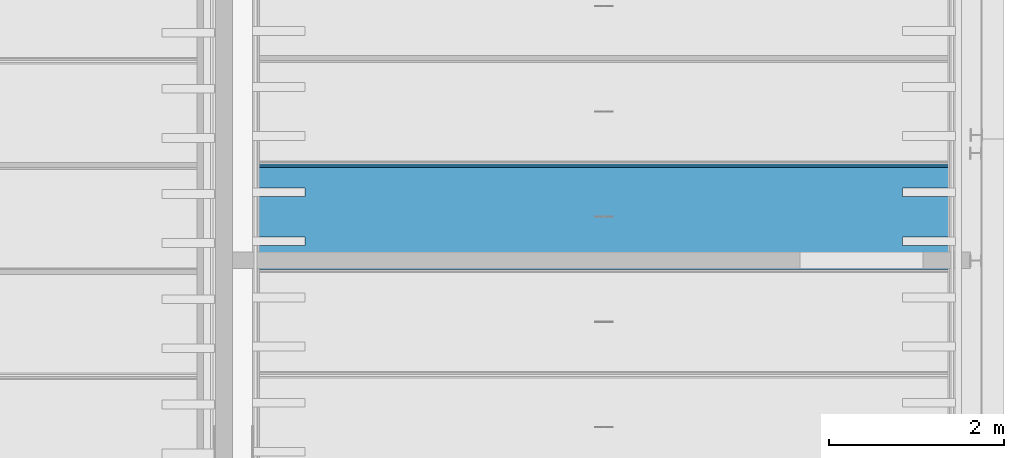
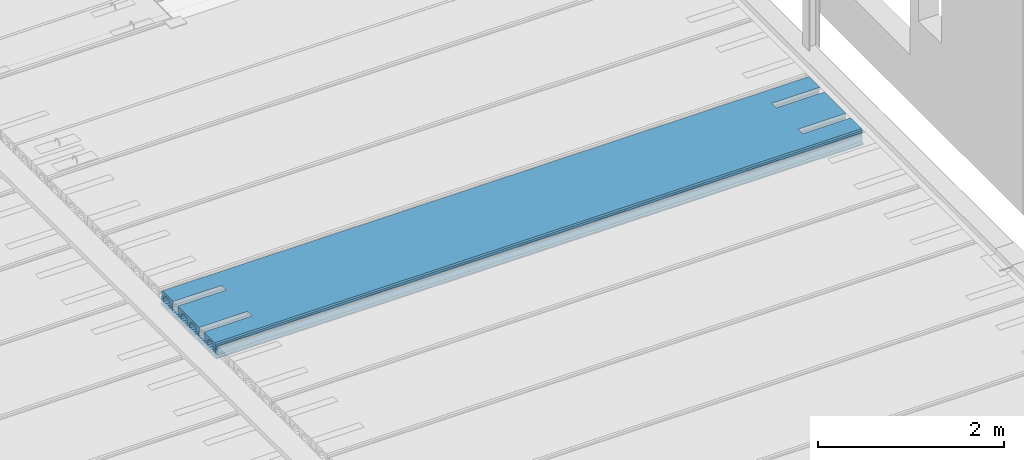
# One storey, part 93 of 230: 1 beam.
"""IFC4X3_ADD2 building model written with IfcOpenShell, lengths in millimetres."""

import ifcopenshell
import ifcopenshell.guid

model = None  # the IFC model being written
_history = None  # IfcOwnerHistory: only IFC2X3 demands one
_inside = {}  # id of a spatial element -> (the spatial element, [elements in it])
_under = {}  # id of a project, library or spatial element -> (it, [spatial elements below it])
_declared = {}  # id of a project -> (the project, [libraries it declares])
_typed = {}  # id of a type object -> (the type object, [elements of that type])
_made_of = {}  # id of a material, layer set ... -> (it, [elements and type objects made of it])


def new_model(schema):
    """Start an empty IFC model of exactly this schema.

    Asked for "IFC4X3", IfcOpenShell would pick the latest addendum, in which some entities
    have other attributes; the version numbers below select the first issue.
    IFC2X3 requires an IfcOwnerHistory on every rooted entity: one is made here for all.
    """
    global model, _history
    if schema == "IFC4X3":
        model = ifcopenshell.file(schema_version=(4, 3, 0, 0))
    else:
        model = ifcopenshell.file(schema=schema)
    _inside.clear()
    _under.clear()
    _declared.clear()
    _typed.clear()
    _made_of.clear()
    _history = None
    if model.schema == "IFC2X3":
        org = make("IfcOrganization", Name="unknown")
        user = make(
            "IfcPersonAndOrganization",
            ThePerson=make("IfcPerson", FamilyName="unknown"),
            TheOrganization=org,
        )
        app = make(
            "IfcApplication",
            ApplicationDeveloper=org,
            Version="unknown",
            ApplicationFullName="unknown",
            ApplicationIdentifier="unknown",
        )
        _history = make(
            "IfcOwnerHistory",
            OwningUser=user,
            OwningApplication=app,
            ChangeAction="ADDED",
            CreationDate=0,
        )
    return model


def make(cls, **values):
    """One entity of the class cls with the attributes given. An attribute that is None is left unset."""
    return model.create_entity(
        cls, **{name: value for name, value in values.items() if value is not None}
    )


def rooted(cls, **values):
    """An entity with a GlobalId (a new one), such as an element, a storey or a relation."""
    return make(cls, GlobalId=ifcopenshell.guid.new(), OwnerHistory=_history, **values)


def si_unit(unit_type, name, prefix=None):
    """IfcSIUnit, for example si_unit("LENGTHUNIT", "METRE", prefix="MILLI")."""
    return make("IfcSIUnit", UnitType=unit_type, Prefix=prefix, Name=name)


def assignment(units):
    """IfcUnitAssignment: the units of a project."""
    return None if units is None else make("IfcUnitAssignment", Units=units)


def point(xyz):
    """IfcCartesianPoint."""
    return None if xyz is None else make("IfcCartesianPoint", Coordinates=xyz)


def direction(xyz):
    """IfcDirection."""
    return None if xyz is None else make("IfcDirection", DirectionRatios=xyz)


def frame(location, z_axis=None, x_axis=None):
    """IfcAxis2Placement3D, a coordinate frame: its origin and axes. An axis left out is left unset."""
    return make(
        "IfcAxis2Placement3D",
        Location=point(location),
        Axis=direction(z_axis),
        RefDirection=direction(x_axis),
    )


def origin_with_axes():
    """The frame at (0, 0, 0) with the z axis (0, 0, 1) and the x axis (1, 0, 0) written out."""
    return frame((0.0, 0.0, 0.0), z_axis=(0.0, 0.0, 1.0), x_axis=(1.0, 0.0, 0.0))


def place(relative_to, where):
    """IfcLocalPlacement: puts the frame where relative to a parent placement (None: the world)."""
    return make(
        "IfcLocalPlacement", PlacementRelTo=relative_to, RelativePlacement=where
    )


def context(
    kind, dimensions, precision=None, world=None, true_north=None, identifier=None
):
    """IfcGeometricRepresentationContext, for example the 3D "Model" context."""
    return make(
        "IfcGeometricRepresentationContext",
        ContextIdentifier=identifier,
        ContextType=kind,
        CoordinateSpaceDimension=dimensions,
        Precision=precision,
        WorldCoordinateSystem=world,
        TrueNorth=true_north,
    )


def subcontext(parent, identifier, kind, view, scale=None):
    """IfcGeometricRepresentationSubContext, for example "Body" below "Model"."""
    return make(
        "IfcGeometricRepresentationSubContext",
        ContextIdentifier=identifier,
        ContextType=kind,
        ParentContext=parent,
        TargetScale=scale,
        TargetView=view,
    )


def project(units=None, contexts=None):
    """IfcProject with its units and contexts."""
    return rooted(
        "IfcProject",
        Name="project",
        RepresentationContexts=contexts,
        UnitsInContext=assignment(units),
    )


def spatial(cls, under=None, at=None, **own):
    """A site, building, storey or space (cls), placed at a placement, below another one or the project."""
    s = rooted(cls, ObjectPlacement=at, **own)
    if under is not None:
        _under.setdefault(under.id(), (under, []))[1].append(s)
    return s


def point_list(points):
    """IfcCartesianPointList2D or 3D."""
    cls = (
        "IfcCartesianPointList2D" if len(points[0]) == 2 else "IfcCartesianPointList3D"
    )
    return make(cls, CoordList=points)


def polygons(points, faces, closed=None, point_numbers=None):
    """IfcPolygonalFaceSet: a face is its outer loop, then its inner loops; points numbered from 1."""
    made = []
    for loops in faces:
        if len(loops) == 1:
            made.append(make("IfcIndexedPolygonalFace", CoordIndex=loops[0]))
        else:
            made.append(
                make(
                    "IfcIndexedPolygonalFaceWithVoids",
                    CoordIndex=loops[0],
                    InnerCoordIndices=loops[1:],
                )
            )
    return make(
        "IfcPolygonalFaceSet",
        Coordinates=point_list(points),
        Closed=closed,
        Faces=made,
        PnIndex=point_numbers,
    )


def shape(context_of_items, identifier, shape_type, items):
    """IfcShapeRepresentation: the items that make up one representation, for example the "Body"."""
    return make(
        "IfcShapeRepresentation",
        ContextOfItems=context_of_items,
        RepresentationIdentifier=identifier,
        RepresentationType=shape_type,
        Items=items,
    )


def made_of(thing, what):
    """Note that an element or type object is made of a material, layer set ...; save() writes the relation."""
    if what is not None:
        _made_of.setdefault(what.id(), (what, []))[1].append(thing)
    return thing


def element(
    cls,
    number,
    at=None,
    inside=None,
    cuts=None,
    type_object=None,
    material=None,
    context=None,
    identifier="Body",
    shape_type=None,
    held_by="IfcProductDefinitionShape",
    body=None,
    shapes=None,
    **own,
):
    """One element of the class cls, such as IfcWall. Its Tag is "e" and its number.

    at: its placement. inside: the storey or other place that contains it. cuts: it is an
    opening in that element (IfcRelVoidsElement). A single representation is given by context,
    identifier, shape_type and body (its items); several are given by shapes. held_by: the class
    of the entity that holds the representations. save() writes the other relations.
    """
    e = rooted(cls, Tag="e%d" % number, ObjectPlacement=at, **own)
    if body is not None:
        shapes = [shape(context, identifier, shape_type, body)]
    if shapes is not None:
        e.Representation = make(held_by, Representations=shapes)
    if inside is not None:
        _inside.setdefault(inside.id(), (inside, []))[1].append(e)
    if cuts is not None:
        rooted(
            "IfcRelVoidsElement", RelatingBuildingElement=cuts, RelatedOpeningElement=e
        )
    if type_object is not None:
        _typed.setdefault(type_object.id(), (type_object, []))[1].append(e)
    return made_of(e, material)


def aggregate(whole, parts):
    """IfcRelAggregates: a whole, such as a stair, and the parts it consists of."""
    return rooted("IfcRelAggregates", RelatingObject=whole, RelatedObjects=parts)


def save(model, path):
    """Write the relations noted so far, then the file.

    IfcRelAggregates (storeys below a building ...), IfcRelContainedInSpatialStructure (elements
    in a storey), IfcRelDefinesByType, IfcRelAssociatesMaterial and IfcRelDeclares: one each for
    every whole, place, type object, material and project.
    """
    for whole, parts in _under.values():
        aggregate(whole, parts)
    for where, things in _inside.values():
        rooted(
            "IfcRelContainedInSpatialStructure",
            RelatedElements=things,
            RelatingStructure=where,
        )
    for kind, things in _typed.values():
        rooted("IfcRelDefinesByType", RelatedObjects=things, RelatingType=kind)
    for what, things in _made_of.values():
        rooted("IfcRelAssociatesMaterial", RelatedObjects=things, RelatingMaterial=what)
    for by, libraries in _declared.values():
        rooted("IfcRelDeclares", RelatingContext=by, RelatedDefinitions=libraries)
    model.write(path)


model = new_model("IFC4X3_ADD2")

# Units and contexts
model_context = context("Model", 3, precision=1e-05, world=origin_with_axes(), true_north=direction((0.0, 1.0)))
body_context = subcontext(model_context, "Body", "Model", "MODEL_VIEW")
ifc_project = project(units=[si_unit("LENGTHUNIT", "METRE", prefix="MILLI"), si_unit("AREAUNIT", "SQUARE_METRE"), si_unit("VOLUMEUNIT", "CUBIC_METRE"), si_unit("PLANEANGLEUNIT", "RADIAN"), si_unit("TIMEUNIT", "SECOND"), si_unit("MASSUNIT", "GRAM")], contexts=[model_context])

# Site, building, storey
site_placement = place(None, origin_with_axes())
site = spatial("IfcSite", under=ifc_project, at=site_placement, Name="Site", CompositionType="ELEMENT")
building_placement = place(site_placement, origin_with_axes())
building = spatial("IfcBuilding", under=site, at=building_placement, Name="IFC Building Story")
storey_placement = place(building_placement, origin_with_axes())
storey = spatial("IfcBuildingStorey", under=building, at=storey_placement, Name="ETAGE 00 (0)", Elevation=0.0)

# Beam
beam_placement = place(storey_placement, origin_with_axes())
element("IfcBeam", 1, at=beam_placement, inside=storey, Name="HOLLOWCORE SLAB", ObjectType="EB_SP200", context=body_context, shape_type="Tessellation", body=[
    polygons([(40181.189, -3951.0, 3999.9999909), (40181.189, -5129.0, 3999.9999909), (40181.189, -5140.0, 4012.9999909), (40181.189, -5140.0, 4029.9999909), (40181.189, -5120.0, 4044.9999909), (40181.189, -5118.549987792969, 4119.9999909), (40181.189, -5111.017378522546, 4128.676139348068), (40181.189, -5108.160069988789, 4139.805000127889), (40181.189, -5110.581363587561, 4151.036789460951), (40181.189, -5117.77001953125, 4159.9999909), (40181.189, -5117.288703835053, 4185.002769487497), (40181.189, -5102.0, 4199.9999909), (40181.189, -4870.0, 4199.9999909), (40181.189, -4870.0, 4155.806158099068), (40181.189, -4874.679455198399, 4152.679446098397), (40181.189, -4890.829025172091, 4128.509906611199), (40181.189, -4896.5, 4099.9999909), (40181.189, -4890.829025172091, 4071.490075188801), (40181.189, -4874.679455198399, 4047.320535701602), (40181.189, -4850.509915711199, 4031.170965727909), (40181.189, -4822.0, 4025.4999909), (40181.189, -4793.490084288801, 4031.170965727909), (40181.189, -4769.320544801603, 4047.320535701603), (40181.189, -4753.170974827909, 4071.490075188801), (40181.189, -4747.5, 4099.9999909), (40181.189, -4753.170974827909, 4128.509906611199), (40181.189, -4769.320544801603, 4152.679446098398), (40181.189, -4770.0, 4153.13344354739), (40181.189, -4770.0, 4199.9999909), (40181.189, -4310.0, 4199.9999909), (40181.189, -4310.0, 4153.13344354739), (40181.189, -4310.679455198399, 4152.679446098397), (40181.189, -4326.829025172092, 4128.509906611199), (40181.189, -4332.500000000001, 4099.9999909), (40181.189, -4326.829025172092, 4071.490075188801), (40181.189, -4310.679455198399, 4047.320535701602), (40181.189, -4286.5099157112, 4031.170965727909), (40181.189, -4258.0, 4025.4999909), (40181.189, -4229.490084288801, 4031.170965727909), (40181.189, -4205.320544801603, 4047.320535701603), (40181.189, -4189.170974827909, 4071.490075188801), (40181.189, -4183.500000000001, 4099.9999909), (40181.189, -4189.170974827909, 4128.509906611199), (40181.189, -4205.320544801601, 4152.679446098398), (40181.189, -4210.0, 4155.806158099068), (40181.189, -4210.0, 4199.9999909), (40181.189, -3978.0, 4199.9999909), (40181.189, -3962.71129616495, 4185.002769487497), (40181.189, -3962.22998046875, 4159.9999909), (40181.189, -3969.41863641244, 4151.036789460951), (40181.189, -3971.83993001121, 4139.805000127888), (40181.189, -3968.98262147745, 4128.676139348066), (40181.189, -3961.450012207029, 4119.9999909), (40181.189, -3960.0, 4044.9999909), (40181.189, -3940.0, 4029.9999909), (40181.189, -3940.0, 4012.9999909), (40181.189, -4017.3205448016, 4152.679446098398), (40181.189, -4041.4900842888, 4168.829016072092), (40181.189, -4070.0, 4174.4999909), (40181.189, -4098.5099157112, 4168.829016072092), (40181.189, -4122.6794551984, 4152.679446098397), (40181.189, -4138.82902517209, 4128.509906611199), (40181.189, -4144.500000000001, 4099.9999909), (40181.189, -4138.82902517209, 4071.490075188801), (40181.189, -4122.6794551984, 4047.320535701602), (40181.189, -4098.5099157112, 4031.170965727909), (40181.189, -4070.0, 4025.4999909), (40181.189, -4041.4900842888, 4031.170965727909), (40181.189, -4017.3205448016, 4047.320535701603), (40181.189, -4001.17097482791, 4071.490075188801), (40181.189, -3995.5, 4099.9999909), (40181.189, -4001.17097482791, 4128.509906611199), (40181.189, -4393.320544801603, 4152.679446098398), (40181.189, -4417.490084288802, 4168.829016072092), (40181.189, -4446.0, 4174.4999909), (40181.189, -4474.5099157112, 4168.829016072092), (40181.189, -4498.679455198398, 4152.679446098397), (40181.189, -4514.829025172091, 4128.509906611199), (40181.189, -4520.500000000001, 4099.9999909), (40181.189, -4514.829025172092, 4071.490075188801), (40181.189, -4498.679455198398, 4047.320535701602), (40181.189, -4474.5099157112, 4031.170965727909), (40181.189, -4446.0, 4025.4999909), (40181.189, -4417.490084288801, 4031.170965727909), (40181.189, -4393.320544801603, 4047.320535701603), (40181.189, -4377.170974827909, 4071.490075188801), (40181.189, -4371.5, 4099.9999909), (40181.189, -4377.170974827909, 4128.509906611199), (40181.189, -4581.320544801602, 4152.679446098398), (40181.189, -4605.490084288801, 4168.829016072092), (40181.189, -4634.0, 4174.4999909), (40181.189, -4662.5099157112, 4168.829016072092), (40181.189, -4686.679455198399, 4152.679446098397), (40181.189, -4702.829025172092, 4128.509906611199), (40181.189, -4708.500000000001, 4099.9999909), (40181.189, -4702.829025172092, 4071.490075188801), (40181.189, -4686.679455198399, 4047.320535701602), (40181.189, -4662.509915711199, 4031.170965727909), (40181.189, -4634.0, 4025.4999909), (40181.189, -4605.490084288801, 4031.170965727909), (40181.189, -4581.320544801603, 4047.320535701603), (40181.189, -4565.17097482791, 4071.490075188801), (40181.189, -4559.5, 4099.9999909), (40181.189, -4565.170974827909, 4128.509906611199), (40181.189, -4957.320544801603, 4152.679446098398), (40181.189, -4981.490084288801, 4168.829016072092), (40181.189, -5010.0, 4174.4999909), (40181.189, -5038.509915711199, 4168.829016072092), (40181.189, -5062.679455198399, 4152.679446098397), (40181.189, -5078.829025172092, 4128.509906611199), (40181.189, -5084.5, 4099.9999909), (40181.189, -5078.829025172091, 4071.490075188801), (40181.189, -5062.679455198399, 4047.320535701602), (40181.189, -5038.509915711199, 4031.170965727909), (40181.189, -5010.0, 4025.4999909), (40181.189, -4981.490084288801, 4031.170965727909), (40181.189, -4957.320544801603, 4047.320535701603), (40181.189, -4941.17097482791, 4071.490075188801), (40181.189, -4935.500000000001, 4099.9999909), (40181.189, -4941.17097482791, 4128.509906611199), (48196.18900000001, -3951.0, 3999.9999909), (48196.18900000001, -3940.0, 4012.9999909), (48196.18900000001, -3940.0, 4029.9999909), (48196.18900000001, -3960.0, 4044.9999909), (48196.18900000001, -3961.450012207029, 4119.9999909), (48196.18900000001, -3968.98262147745, 4128.676139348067), (48196.18900000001, -3971.83993001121, 4139.805000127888), (48196.18900000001, -3969.41863641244, 4151.036789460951), (48196.18900000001, -3962.22998046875, 4159.9999909), (48196.18900000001, -3962.71129616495, 4185.002769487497), (48196.18900000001, -3978.0, 4199.9999909), (48196.18900000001, -4210.0, 4199.9999909), (48196.18900000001, -4210.0, 4155.806158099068), (48196.18900000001, -4205.320544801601, 4152.679446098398), (48196.18900000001, -4189.17097482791, 4128.509906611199), (48196.18900000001, -4183.5, 4099.9999909), (48196.18900000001, -4189.17097482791, 4071.490075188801), (48196.18900000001, -4205.320544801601, 4047.320535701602), (48196.18900000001, -4229.490084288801, 4031.170965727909), (48196.18900000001, -4258.0, 4025.4999909), (48196.18900000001, -4286.5099157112, 4031.170965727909), (48196.18900000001, -4310.679455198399, 4047.320535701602), (48196.18900000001, -4326.829025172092, 4071.490075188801), (48196.18900000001, -4332.500000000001, 4099.9999909), (48196.18900000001, -4326.829025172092, 4128.509906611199), (48196.18900000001, -4310.679455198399, 4152.679446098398), (48196.18900000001, -4310.0, 4153.13344354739), (48196.18900000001, -4310.0, 4199.9999909), (48196.18900000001, -4770.0, 4199.9999909), (48196.18900000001, -4770.0, 4153.13344354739), (48196.18900000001, -4769.320544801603, 4152.679446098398), (48196.18900000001, -4753.170974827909, 4128.509906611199), (48196.18900000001, -4747.5, 4099.9999909), (48196.18900000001, -4753.170974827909, 4071.490075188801), (48196.18900000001, -4769.320544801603, 4047.320535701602), (48196.18900000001, -4793.490084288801, 4031.170965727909), (48196.18900000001, -4822.0, 4025.4999909), (48196.18900000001, -4850.5099157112, 4031.170965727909), (48196.18900000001, -4874.679455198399, 4047.320535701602), (48196.18900000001, -4890.829025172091, 4071.490075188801), (48196.18900000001, -4896.5, 4099.9999909), (48196.18900000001, -4890.829025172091, 4128.509906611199), (48196.18900000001, -4874.679455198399, 4152.679446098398), (48196.18900000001, -4870.0, 4155.806158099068), (48196.18900000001, -4870.0, 4199.9999909), (48196.18900000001, -5102.0, 4199.9999909), (48196.18900000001, -5117.288703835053, 4185.002769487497), (48196.18900000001, -5117.770019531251, 4159.9999909), (48196.18900000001, -5110.581363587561, 4151.036789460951), (48196.18900000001, -5108.160069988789, 4139.805000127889), (48196.18900000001, -5111.017378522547, 4128.676139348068), (48196.18900000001, -5118.549987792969, 4119.9999909), (48196.18900000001, -5120.0, 4044.9999909), (48196.18900000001, -5140.0, 4029.9999909), (48196.18900000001, -5140.0, 4012.9999909), (48196.18900000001, -5129.0, 3999.9999909), (48196.18900000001, -4017.3205448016, 4152.679446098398), (48196.18900000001, -4001.17097482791, 4128.509906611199), (48196.18900000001, -3995.5, 4099.9999909), (48196.18900000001, -4001.17097482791, 4071.490075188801), (48196.18900000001, -4017.3205448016, 4047.320535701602), (48196.18900000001, -4041.4900842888, 4031.170965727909), (48196.18900000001, -4070.0, 4025.4999909), (48196.18900000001, -4098.5099157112, 4031.170965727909), (48196.18900000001, -4122.6794551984, 4047.320535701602), (48196.18900000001, -4138.82902517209, 4071.490075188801), (48196.18900000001, -4144.500000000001, 4099.9999909), (48196.18900000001, -4138.82902517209, 4128.509906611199), (48196.18900000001, -4122.6794551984, 4152.679446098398), (48196.18900000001, -4098.5099157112, 4168.829016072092), (48196.18900000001, -4070.0, 4174.4999909), (48196.18900000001, -4041.4900842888, 4168.829016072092), (48196.18900000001, -4393.320544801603, 4152.679446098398), (48196.18900000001, -4377.170974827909, 4128.509906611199), (48196.18900000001, -4371.5, 4099.9999909), (48196.18900000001, -4377.170974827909, 4071.490075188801), (48196.18900000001, -4393.320544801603, 4047.320535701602), (48196.18900000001, -4417.490084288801, 4031.170965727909), (48196.18900000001, -4446.0, 4025.4999909), (48196.18900000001, -4474.5099157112, 4031.170965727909), (48196.18900000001, -4498.679455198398, 4047.320535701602), (48196.18900000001, -4514.829025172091, 4071.490075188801), (48196.18900000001, -4520.500000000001, 4099.9999909), (48196.18900000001, -4514.829025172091, 4128.509906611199), (48196.18900000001, -4498.679455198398, 4152.679446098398), (48196.18900000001, -4474.5099157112, 4168.829016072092), (48196.18900000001, -4446.0, 4174.4999909), (48196.18900000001, -4417.490084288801, 4168.829016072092), (48196.18900000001, -4581.320544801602, 4152.679446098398), (48196.18900000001, -4565.17097482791, 4128.509906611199), (48196.18900000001, -4559.5, 4099.9999909), (48196.18900000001, -4565.17097482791, 4071.490075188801), (48196.18900000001, -4581.320544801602, 4047.320535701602), (48196.18900000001, -4605.490084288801, 4031.170965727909), (48196.18900000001, -4634.0, 4025.4999909), (48196.18900000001, -4662.5099157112, 4031.170965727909), (48196.18900000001, -4686.679455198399, 4047.320535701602), (48196.18900000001, -4702.829025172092, 4071.490075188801), (48196.18900000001, -4708.500000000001, 4099.9999909), (48196.18900000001, -4702.829025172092, 4128.509906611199), (48196.18900000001, -4686.679455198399, 4152.679446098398), (48196.18900000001, -4662.5099157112, 4168.829016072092), (48196.18900000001, -4634.0, 4174.4999909), (48196.18900000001, -4605.490084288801, 4168.829016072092), (48196.18900000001, -4957.320544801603, 4152.679446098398), (48196.18900000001, -4941.17097482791, 4128.509906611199), (48196.18900000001, -4935.500000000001, 4099.9999909), (48196.18900000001, -4941.17097482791, 4071.490075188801), (48196.18900000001, -4957.320544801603, 4047.320535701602), (48196.18900000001, -4981.490084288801, 4031.170965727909), (48196.18900000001, -5010.0, 4025.4999909), (48196.18900000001, -5038.509915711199, 4031.170965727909), (48196.18900000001, -5062.679455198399, 4047.320535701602), (48196.18900000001, -5078.829025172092, 4071.490075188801), (48196.18900000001, -5084.5, 4099.9999909), (48196.18900000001, -5078.829025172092, 4128.509906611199), (48196.18900000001, -5062.679455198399, 4152.679446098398), (48196.18900000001, -5038.509915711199, 4168.829016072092), (48196.18900000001, -5010.0, 4174.4999909), (48196.18900000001, -4981.490084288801, 4168.829016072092), (40781.189, -4210.0, 4199.9999909), (40781.189, -4310.0, 4199.9999909), (40781.189, -4770.0, 4199.9999909), (40781.189, -4870.0, 4199.9999909), (47596.18900000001, -4870.0, 4199.9999909), (47596.18900000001, -4770.0, 4199.9999909), (47596.18900000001, -4310.0, 4199.9999909), (47596.18900000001, -4210.0, 4199.9999909), (47596.18900000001, -4210.0, 4155.806158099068), (47596.18900000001, -4229.490084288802, 4168.829016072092), (40781.189, -4229.490084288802, 4168.829016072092), (40781.189, -4210.0, 4155.806158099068), (47596.18900000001, -4258.0, 4174.4999909), (40781.189, -4258.0, 4174.4999909), (47596.18900000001, -4286.5099157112, 4168.829016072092), (40781.189, -4286.5099157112, 4168.829016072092), (40781.189, -4310.0, 4153.13344354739), (47596.18900000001, -4310.0, 4153.13344354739), (47596.18900000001, -4770.0, 4153.133443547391), (47596.18900000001, -4793.490084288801, 4168.829016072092), (40781.189, -4793.490084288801, 4168.829016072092), (40781.189, -4770.0, 4153.13344354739), (47596.18900000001, -4822.0, 4174.4999909), (40781.189, -4822.0, 4174.4999909), (47596.18900000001, -4850.5099157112, 4168.829016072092), (40781.189, -4850.509915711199, 4168.829016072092), (40781.189, -4870.0, 4155.806158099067), (47596.18900000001, -4870.0, 4155.806158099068), (40781.189, -4310.0, 4199.999996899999), (40781.189, -4210.0, 4199.999996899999), (47596.18900000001, -4210.0, 4199.999996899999), (47596.18900000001, -4310.0, 4199.999996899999), (47596.18900000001, -4770.0, 4199.999996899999), (47596.18900000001, -4870.0, 4199.999996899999), (40781.189, -4870.0, 4199.999996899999), (40781.189, -4770.0, 4199.999996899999)], [[[27, 28, 29]], [[92, 93, 26]], [[92, 26, 27]], [[92, 27, 29]], [[29, 91, 92]], [[91, 29, 30]], [[30, 90, 91]], [[30, 89, 90]], [[94, 95, 25]], [[94, 25, 26]], [[26, 93, 94]], [[96, 97, 24]], [[24, 25, 95]], [[24, 95, 96]], [[97, 23, 24]], [[76, 77, 104]], [[76, 104, 89]], [[89, 75, 76]], [[75, 89, 30]], [[30, 74, 75]], [[30, 73, 74]], [[78, 79, 103]], [[78, 103, 104]], [[104, 77, 78]], [[80, 81, 102]], [[102, 103, 79]], [[102, 79, 80]], [[81, 101, 102]], [[88, 73, 30]], [[88, 30, 31]], [[33, 34, 87]], [[33, 87, 88]], [[88, 32, 33]], [[88, 31, 32]], [[35, 36, 86]], [[86, 87, 34]], [[86, 34, 35]], [[36, 85, 86]], [[44, 45, 46]], [[60, 61, 43]], [[60, 43, 44]], [[60, 44, 46]], [[46, 59, 60]], [[46, 47, 59]], [[47, 58, 59]], [[47, 57, 58]], [[62, 63, 42]], [[62, 42, 43]], [[43, 61, 62]], [[64, 65, 41]], [[41, 42, 63]], [[41, 63, 64]], [[50, 51, 72]], [[50, 72, 57]], [[57, 47, 48]], [[57, 48, 49]], [[57, 49, 50]], [[52, 53, 71]], [[52, 71, 72]], [[72, 51, 52]], [[53, 54, 70]], [[53, 70, 71]], [[54, 55, 56]], [[54, 56, 1]], [[1, 69, 70]], [[1, 70, 54]], [[1, 68, 69]], [[1, 67, 68]], [[1, 66, 67]], [[1, 40, 66]], [[40, 41, 65]], [[40, 65, 66]], [[1, 39, 40]], [[1, 38, 39]], [[1, 84, 38]], [[84, 37, 38]], [[84, 85, 36]], [[84, 36, 37]], [[1, 83, 84]], [[1, 100, 83]], [[100, 82, 83]], [[100, 101, 81]], [[100, 81, 82]], [[1, 99, 100]], [[1, 22, 99]], [[22, 98, 99]], [[22, 23, 97]], [[22, 97, 98]], [[1, 21, 22]], [[1, 2, 21]], [[2, 20, 21]], [[2, 19, 20]], [[9, 10, 11]], [[9, 11, 12]], [[109, 110, 8]], [[109, 8, 9]], [[9, 12, 108]], [[9, 108, 109]], [[12, 107, 108]], [[107, 12, 13]], [[13, 106, 107]], [[13, 105, 106]], [[110, 7, 8]], [[112, 113, 5]], [[5, 6, 111]], [[5, 111, 112]], [[6, 7, 110]], [[6, 110, 111]], [[116, 117, 18]], [[116, 18, 19]], [[19, 115, 116]], [[19, 2, 115]], [[2, 114, 115]], [[2, 5, 113]], [[2, 113, 114]], [[2, 3, 4]], [[2, 4, 5]], [[118, 119, 17]], [[118, 17, 18]], [[18, 117, 118]], [[120, 105, 16]], [[16, 17, 119]], [[16, 119, 120]], [[105, 13, 15]], [[105, 15, 16]], [[13, 14, 15]], [[173, 174, 175]], [[173, 175, 176]], [[128, 129, 130]], [[128, 130, 131]], [[128, 131, 177]], [[177, 178, 127]], [[177, 127, 128]], [[178, 126, 127]], [[180, 181, 124]], [[124, 125, 179]], [[124, 179, 180]], [[125, 126, 178]], [[125, 178, 179]], [[192, 177, 131]], [[131, 191, 192]], [[191, 131, 132]], [[132, 190, 191]], [[132, 189, 190]], [[132, 133, 188]], [[132, 188, 189]], [[135, 136, 187]], [[135, 187, 188]], [[188, 134, 135]], [[188, 133, 134]], [[137, 138, 186]], [[186, 187, 136]], [[186, 136, 137]], [[138, 139, 185]], [[138, 185, 186]], [[139, 184, 185]], [[146, 147, 148]], [[148, 193, 145]], [[148, 145, 146]], [[194, 195, 144]], [[194, 144, 145]], [[145, 193, 194]], [[196, 197, 143]], [[143, 144, 195]], [[143, 195, 196]], [[197, 142, 143]], [[208, 193, 148]], [[148, 207, 208]], [[148, 209, 207]], [[209, 206, 207]], [[209, 205, 206]], [[209, 204, 205]], [[210, 211, 203]], [[210, 203, 204]], [[204, 209, 210]], [[212, 213, 202]], [[202, 203, 211]], [[202, 211, 212]], [[213, 201, 202]], [[224, 209, 148]], [[148, 223, 224]], [[148, 149, 223]], [[149, 222, 223]], [[149, 221, 222]], [[149, 150, 220]], [[149, 220, 221]], [[152, 153, 219]], [[152, 219, 220]], [[220, 151, 152]], [[220, 150, 151]], [[154, 155, 218]], [[218, 219, 153]], [[218, 153, 154]], [[155, 217, 218]], [[163, 164, 165]], [[165, 225, 162]], [[165, 162, 163]], [[226, 227, 161]], [[226, 161, 162]], [[162, 225, 226]], [[228, 229, 160]], [[160, 161, 227]], [[160, 227, 228]], [[235, 236, 171]], [[235, 171, 172]], [[172, 173, 234]], [[172, 234, 235]], [[173, 176, 233]], [[173, 233, 234]], [[176, 232, 233]], [[176, 231, 232]], [[176, 230, 231]], [[176, 159, 230]], [[159, 160, 229]], [[159, 229, 230]], [[176, 158, 159]], [[176, 157, 158]], [[176, 216, 157]], [[216, 156, 157]], [[216, 217, 155]], [[216, 155, 156]], [[176, 215, 216]], [[176, 200, 215]], [[200, 214, 215]], [[200, 201, 213]], [[200, 213, 214]], [[176, 199, 200]], [[176, 141, 199]], [[141, 198, 199]], [[141, 142, 197]], [[141, 197, 198]], [[176, 140, 141]], [[176, 183, 140]], [[183, 184, 139]], [[183, 139, 140]], [[176, 121, 183]], [[121, 182, 183]], [[121, 124, 181]], [[121, 181, 182]], [[121, 122, 123]], [[121, 123, 124]], [[236, 170, 171]], [[240, 225, 165]], [[165, 239, 240]], [[165, 166, 239]], [[166, 238, 239]], [[166, 169, 237]], [[166, 237, 238]], [[169, 170, 236]], [[169, 236, 237]], [[166, 167, 168]], [[166, 168, 169]], [[2, 1, 121, 176]], [[3, 2, 176, 175]], [[4, 3, 175, 174]], [[5, 4, 174, 173]], [[6, 5, 173, 172]], [[7, 6, 172, 171]], [[8, 7, 171, 170]], [[9, 8, 170, 169]], [[10, 9, 169, 168]], [[11, 10, 168, 167]], [[12, 11, 167, 166]], [[242, 30, 29]], [[242, 29, 243]], [[244, 13, 12]], [[244, 12, 166]], [[166, 243, 244]], [[242, 243, 166]], [[166, 241, 242]], [[246, 149, 148]], [[246, 148, 247]], [[248, 132, 131]], [[248, 131, 47]], [[47, 247, 248]], [[246, 247, 47]], [[47, 245, 246]], [[47, 241, 166]], [[47, 166, 245]], [[166, 165, 245]], [[47, 46, 241]], [[48, 47, 131, 130]], [[49, 48, 130, 129]], [[50, 49, 129, 128]], [[51, 50, 128, 127]], [[52, 51, 127, 126]], [[53, 52, 126, 125]], [[54, 53, 125, 124]], [[55, 54, 124, 123]], [[56, 55, 123, 122]], [[1, 56, 122, 121]], [[58, 57, 177, 192]], [[59, 58, 192, 191]], [[60, 59, 191, 190]], [[61, 60, 190, 189]], [[62, 61, 189, 188]], [[63, 62, 188, 187]], [[64, 63, 187, 186]], [[65, 64, 186, 185]], [[66, 65, 185, 184]], [[67, 66, 184, 183]], [[68, 67, 183, 182]], [[69, 68, 182, 181]], [[70, 69, 181, 180]], [[71, 70, 180, 179]], [[72, 71, 179, 178]], [[57, 72, 178, 177]], [[252, 45, 44]], [[252, 44, 249]], [[249, 250, 251]], [[249, 251, 252]], [[44, 134, 249]], [[134, 133, 249]], [[251, 250, 253, 254]], [[254, 253, 255, 256]], [[258, 147, 146]], [[258, 146, 257]], [[257, 256, 255]], [[257, 255, 258]], [[146, 32, 257]], [[32, 31, 257]], [[33, 32, 146, 145]], [[34, 33, 145, 144]], [[35, 34, 144, 143]], [[36, 35, 143, 142]], [[37, 36, 142, 141]], [[38, 37, 141, 140]], [[39, 38, 140, 139]], [[40, 39, 139, 138]], [[41, 40, 138, 137]], [[42, 41, 137, 136]], [[43, 42, 136, 135]], [[44, 43, 135, 134]], [[74, 73, 193, 208]], [[75, 74, 208, 207]], [[76, 75, 207, 206]], [[77, 76, 206, 205]], [[78, 77, 205, 204]], [[79, 78, 204, 203]], [[80, 79, 203, 202]], [[81, 80, 202, 201]], [[82, 81, 201, 200]], [[83, 82, 200, 199]], [[84, 83, 199, 198]], [[85, 84, 198, 197]], [[86, 85, 197, 196]], [[87, 86, 196, 195]], [[88, 87, 195, 194]], [[73, 88, 194, 193]], [[90, 89, 209, 224]], [[91, 90, 224, 223]], [[92, 91, 223, 222]], [[93, 92, 222, 221]], [[94, 93, 221, 220]], [[95, 94, 220, 219]], [[96, 95, 219, 218]], [[97, 96, 218, 217]], [[98, 97, 217, 216]], [[99, 98, 216, 215]], [[100, 99, 215, 214]], [[101, 100, 214, 213]], [[102, 101, 213, 212]], [[103, 102, 212, 211]], [[104, 103, 211, 210]], [[89, 104, 210, 209]], [[262, 28, 27]], [[262, 27, 259]], [[259, 260, 261]], [[259, 261, 262]], [[27, 151, 259]], [[151, 150, 259]], [[260, 263, 264, 261]], [[263, 265, 266, 264]], [[268, 164, 163]], [[268, 163, 267]], [[267, 266, 265]], [[267, 265, 268]], [[163, 15, 267]], [[15, 14, 267]], [[16, 15, 163, 162]], [[17, 16, 162, 161]], [[18, 17, 161, 160]], [[19, 18, 160, 159]], [[20, 19, 159, 158]], [[21, 20, 158, 157]], [[22, 21, 157, 156]], [[23, 22, 156, 155]], [[24, 23, 155, 154]], [[25, 24, 154, 153]], [[26, 25, 153, 152]], [[27, 26, 152, 151]], [[106, 105, 225, 240]], [[107, 106, 240, 239]], [[108, 107, 239, 238]], [[109, 108, 238, 237]], [[110, 109, 237, 236]], [[111, 110, 236, 235]], [[112, 111, 235, 234]], [[113, 112, 234, 233]], [[114, 113, 233, 232]], [[115, 114, 232, 231]], [[116, 115, 231, 230]], [[117, 116, 230, 229]], [[118, 117, 229, 228]], [[119, 118, 228, 227]], [[120, 119, 227, 226]], [[105, 120, 226, 225]], [[46, 45, 252, 241]], [[31, 30, 269, 257]], [[256, 257, 242]], [[242, 270, 254]], [[242, 254, 256]], [[270, 251, 254]], [[270, 252, 251]], [[148, 147, 258, 247]], [[133, 132, 271, 249]], [[250, 249, 248]], [[248, 253, 250]], [[248, 272, 255]], [[248, 255, 253]], [[272, 258, 255]], [[165, 164, 268, 245]], [[150, 149, 273, 259]], [[260, 259, 246]], [[246, 274, 263]], [[246, 263, 260]], [[274, 265, 263]], [[274, 268, 265]], [[262, 243, 29, 28]], [[275, 267, 14, 13]], [[266, 267, 244]], [[244, 264, 266]], [[244, 276, 261]], [[244, 261, 264]], [[276, 262, 261]]]),
])

save(model, "model.ifc")
